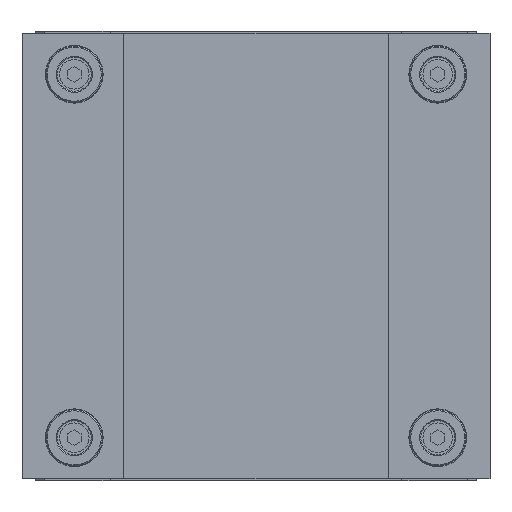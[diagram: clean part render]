
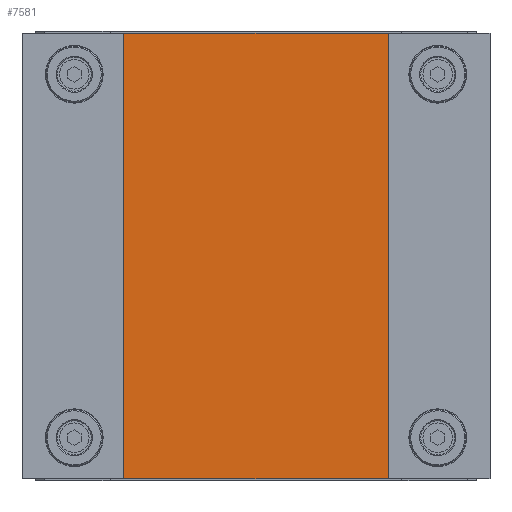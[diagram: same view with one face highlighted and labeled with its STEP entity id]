
A CAD part, front view. The second image highlights one B-rep face of the part: STEP entity #7581.
In plain terms, the highlighted planar face has unit normal (0, -1, 0).
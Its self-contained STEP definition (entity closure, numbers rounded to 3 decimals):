
#947 = VERTEX_POINT ( 'NONE', #6317 ) ;
#2593 = VERTEX_POINT ( 'NONE', #8888 ) ;
#3406 = LINE ( 'NONE', #3407, #3408 ) ;
#3407 = CARTESIAN_POINT ( 'NONE',  ( -63., -20., 98. ) ) ;
#3408 = VECTOR ( 'NONE', #3409, 1000. ) ;
#3409 = DIRECTION ( 'NONE',  ( 0., 0., -1. ) ) ;
#3535 = EDGE_CURVE ( 'NONE', #2593, #947, #9408, .T. ) ;
#3679 = CARTESIAN_POINT ( 'NONE',  ( -63., -20., 98. ) ) ;
#4616 = VERTEX_POINT ( 'NONE', #9947 ) ;
#5253 = FACE_OUTER_BOUND ( 'NONE', #7934, .T. ) ;
#5254 = PLANE ( 'NONE',  #5255 ) ;
#5255 = AXIS2_PLACEMENT_3D ( 'NONE', #5256, #5257, #5258 ) ;
#5256 = CARTESIAN_POINT ( 'NONE',  ( 63., -20., 98. ) ) ;
#5257 = DIRECTION ( 'NONE',  ( 0., 1., 0. ) ) ;
#5258 = DIRECTION ( 'NONE',  ( -1., 0., 0. ) ) ;
#5510 = EDGE_CURVE ( 'NONE', #5784, #4616, #3406, .T. ) ;
#5784 = VERTEX_POINT ( 'NONE', #3679 ) ;
#6122 = LINE ( 'NONE', #6123, #6124 ) ;
#6123 = CARTESIAN_POINT ( 'NONE',  ( 63., -20., -98. ) ) ;
#6124 = VECTOR ( 'NONE', #6125, 1000. ) ;
#6125 = DIRECTION ( 'NONE',  ( 1., 0., 0. ) ) ;
#6317 = CARTESIAN_POINT ( 'NONE',  ( 63., -20., -98. ) ) ;
#7097 = LINE ( 'NONE', #7098, #7099 ) ;
#7098 = CARTESIAN_POINT ( 'NONE',  ( 63., -20., 98. ) ) ;
#7099 = VECTOR ( 'NONE', #7100, 1000. ) ;
#7100 = DIRECTION ( 'NONE',  ( 1., 0., 0. ) ) ;
#7581 = ADVANCED_FACE ( 'NONE', ( #5253 ), #5254, .F. ) ;
#7934 = EDGE_LOOP ( 'NONE', ( #8415, #9253, #9732, #10542 ) ) ;
#8415 = ORIENTED_EDGE ( 'NONE', *, *, #8750, .T. ) ;
#8750 = EDGE_CURVE ( 'NONE', #4616, #947, #6122, .T. ) ;
#8888 = CARTESIAN_POINT ( 'NONE',  ( 63., -20., 98. ) ) ;
#9253 = ORIENTED_EDGE ( 'NONE', *, *, #3535, .F. ) ;
#9408 = LINE ( 'NONE', #9409, #9410 ) ;
#9409 = CARTESIAN_POINT ( 'NONE',  ( 63., -20., 98. ) ) ;
#9410 = VECTOR ( 'NONE', #9411, 1000. ) ;
#9411 = DIRECTION ( 'NONE',  ( 0., 0., -1. ) ) ;
#9732 = ORIENTED_EDGE ( 'NONE', *, *, #10049, .F. ) ;
#9947 = CARTESIAN_POINT ( 'NONE',  ( -63., -20., -98. ) ) ;
#10049 = EDGE_CURVE ( 'NONE', #5784, #2593, #7097, .T. ) ;
#10542 = ORIENTED_EDGE ( 'NONE', *, *, #5510, .T. ) ;
